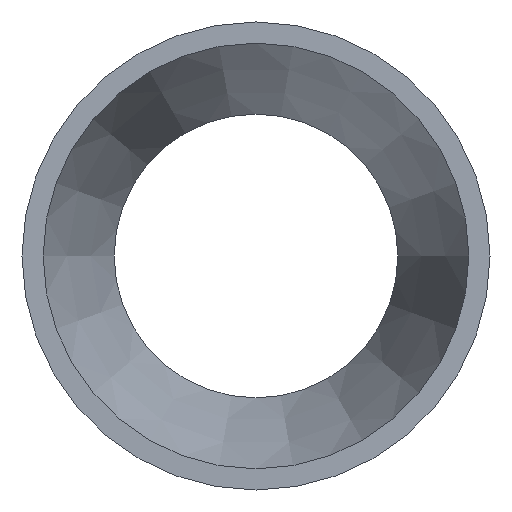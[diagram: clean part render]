
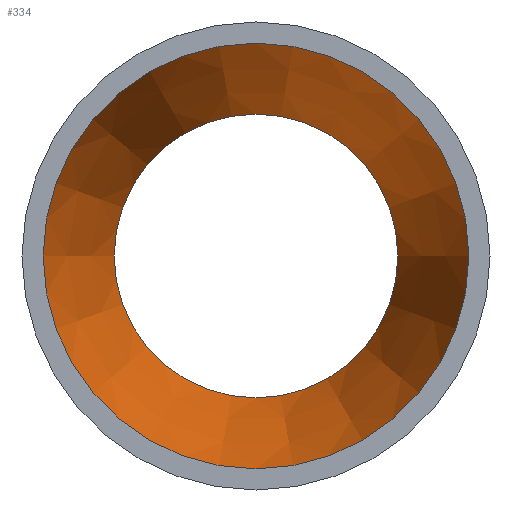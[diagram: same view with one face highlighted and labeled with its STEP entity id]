
A CAD part, left-side view. The second image highlights one B-rep face of the part: STEP entity #334.
In plain terms, the highlighted conical face has half-angle 16.314 degrees and reference radius 22.86 mm.
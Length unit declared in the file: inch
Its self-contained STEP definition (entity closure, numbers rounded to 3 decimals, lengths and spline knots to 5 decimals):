
#66=FACE_OUTER_BOUND('',#82,.T.);
#82=EDGE_LOOP('',(#235,#236,#237,#238,#239,#240));
#104=LINE('',#580,#114);
#114=VECTOR('',#447,0.9);
#127=CIRCLE('',#375,0.72);
#128=CIRCLE('',#376,1.08);
#129=CIRCLE('',#377,1.08);
#130=CIRCLE('',#378,0.72);
#159=VERTEX_POINT('',#576);
#160=VERTEX_POINT('',#577);
#161=VERTEX_POINT('',#579);
#162=VERTEX_POINT('',#581);
#192=EDGE_CURVE('',#159,#160,#127,.T.);
#193=EDGE_CURVE('',#160,#161,#104,.T.);
#194=EDGE_CURVE('',#162,#161,#128,.T.);
#195=EDGE_CURVE('',#161,#162,#129,.T.);
#196=EDGE_CURVE('',#160,#159,#130,.T.);
#235=ORIENTED_EDGE('',*,*,#192,.T.);
#236=ORIENTED_EDGE('',*,*,#193,.T.);
#237=ORIENTED_EDGE('',*,*,#194,.F.);
#238=ORIENTED_EDGE('',*,*,#195,.F.);
#239=ORIENTED_EDGE('',*,*,#193,.F.);
#240=ORIENTED_EDGE('',*,*,#196,.T.);
#314=CONICAL_SURFACE('',#374,0.9,0.285);
#334=ADVANCED_FACE('',(#66),#314,.F.);
#374=AXIS2_PLACEMENT_3D('',#575,#443,#444);
#375=AXIS2_PLACEMENT_3D('',#578,#445,#446);
#376=AXIS2_PLACEMENT_3D('',#582,#448,#449);
#377=AXIS2_PLACEMENT_3D('',#583,#450,#451);
#378=AXIS2_PLACEMENT_3D('',#584,#452,#453);
#443=DIRECTION('center_axis',(-1.,0.,0.));
#444=DIRECTION('ref_axis',(0.,1.,0.));
#445=DIRECTION('center_axis',(1.,0.,0.));
#446=DIRECTION('ref_axis',(0.,1.,0.));
#447=DIRECTION('',(-0.96,-0.281,0.));
#448=DIRECTION('center_axis',(1.,0.,0.));
#449=DIRECTION('ref_axis',(0.,1.,0.));
#450=DIRECTION('center_axis',(1.,0.,0.));
#451=DIRECTION('ref_axis',(0.,1.,0.));
#452=DIRECTION('center_axis',(1.,0.,0.));
#453=DIRECTION('ref_axis',(0.,1.,0.));
#575=CARTESIAN_POINT('Origin',(1.875,0.,0.));
#576=CARTESIAN_POINT('',(2.49,0.72,0.));
#577=CARTESIAN_POINT('',(2.49,-0.72,0.));
#578=CARTESIAN_POINT('Origin',(2.49,0.,0.));
#579=CARTESIAN_POINT('',(1.26,-1.08,0.));
#580=CARTESIAN_POINT('',(1.875,-0.9,0.));
#581=CARTESIAN_POINT('',(1.26,1.08,0.));
#582=CARTESIAN_POINT('Origin',(1.26,0.,0.));
#583=CARTESIAN_POINT('Origin',(1.26,0.,0.));
#584=CARTESIAN_POINT('Origin',(2.49,0.,0.));
